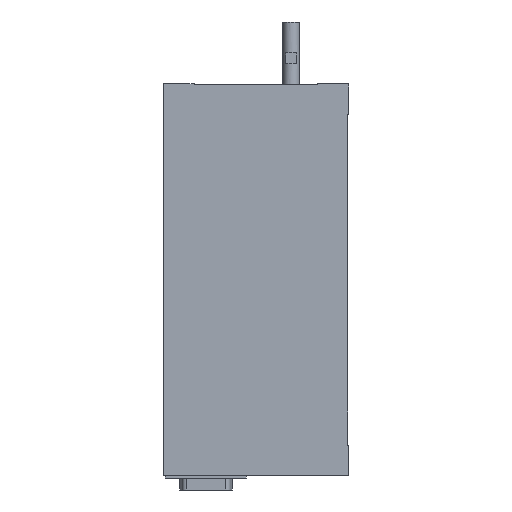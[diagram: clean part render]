
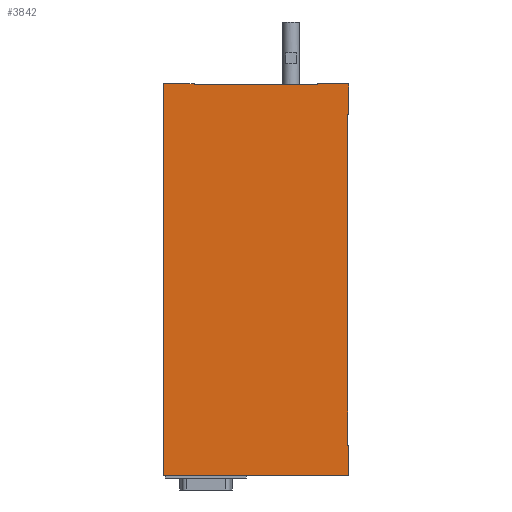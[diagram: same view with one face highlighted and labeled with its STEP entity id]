
A CAD part, front view. The second image highlights one B-rep face of the part: STEP entity #3842.
In plain terms, the highlighted planar face has unit normal (0, -1, 0).
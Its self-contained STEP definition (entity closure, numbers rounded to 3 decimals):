
#3577=CARTESIAN_POINT('',(30.,-17.0,189.5));
#3578=VERTEX_POINT('',#3577);
#3610=CARTESIAN_POINT('',(-30.,-17.,189.5));
#3611=VERTEX_POINT('',#3610);
#3618=CARTESIAN_POINT('',(30.,-17.0,189.5));
#3619=DIRECTION('',(-1.0,0.0,0.0));
#3620=VECTOR('',#3619,60.0);
#3621=LINE('',#3618,#3620);
#3622=EDGE_CURVE('',#3578,#3611,#3621,.T.);
#3636=CARTESIAN_POINT('',(30.,-17.0,190.0));
#3637=VERTEX_POINT('',#3636);
#3638=CARTESIAN_POINT('',(30.,-17.0,190.0));
#3639=DIRECTION('',(0.0,0.0,-1.0));
#3640=VECTOR('',#3639,0.5);
#3641=LINE('',#3638,#3640);
#3642=EDGE_CURVE('',#3637,#3578,#3641,.T.);
#3676=CARTESIAN_POINT('',(-30.,-17.,190.0));
#3677=VERTEX_POINT('',#3676);
#3684=CARTESIAN_POINT('',(-30.,-17.,189.5));
#3685=DIRECTION('',(0.0,0.0,1.0));
#3686=VECTOR('',#3685,0.5);
#3687=LINE('',#3684,#3686);
#3688=EDGE_CURVE('',#3611,#3677,#3687,.T.);
#3707=CARTESIAN_POINT('',(-45.,-17.,190.0));
#3708=VERTEX_POINT('',#3707);
#3715=CARTESIAN_POINT('',(-30.,-17.,190.0));
#3716=DIRECTION('',(-1.0,0.0,0.0));
#3717=VECTOR('',#3716,15.);
#3718=LINE('',#3715,#3717);
#3719=EDGE_CURVE('',#3677,#3708,#3718,.T.);
#3742=CARTESIAN_POINT('',(45.,-17.,190.0));
#3743=VERTEX_POINT('',#3742);
#3744=CARTESIAN_POINT('',(45.,-17.,190.0));
#3745=DIRECTION('',(-1.0,0.0,0.0));
#3746=VECTOR('',#3745,15.);
#3747=LINE('',#3744,#3746);
#3748=EDGE_CURVE('',#3743,#3637,#3747,.T.);
#3776=CARTESIAN_POINT('',(45.,-17.,0.0));
#3777=DIRECTION('',(0.0,-1.0,0.0));
#3778=DIRECTION('',(0.0,0.0,-1.0));
#3779=AXIS2_PLACEMENT_3D('',#3776,#3777,#3778);
#3780=PLANE('',#3779);
#3781=ORIENTED_EDGE('',*,*,#3642,.T.);
#3782=ORIENTED_EDGE('',*,*,#3622,.T.);
#3783=ORIENTED_EDGE('',*,*,#3688,.T.);
#3784=ORIENTED_EDGE('',*,*,#3719,.T.);
#3785=CARTESIAN_POINT('',(-45.,-17.,0.0));
#3786=VERTEX_POINT('',#3785);
#3787=CARTESIAN_POINT('',(-45.,-17.,0.0));
#3788=DIRECTION('',(0.0,0.0,1.0));
#3789=VECTOR('',#3788,190.0);
#3790=LINE('',#3787,#3789);
#3791=EDGE_CURVE('',#3786,#3708,#3790,.T.);
#3792=ORIENTED_EDGE('',*,*,#3791,.F.);
#3793=CARTESIAN_POINT('',(45.,-17.,0.0));
#3794=VERTEX_POINT('',#3793);
#3795=CARTESIAN_POINT('',(45.,-17.,0.0));
#3796=DIRECTION('',(-1.0,0.0,0.0));
#3797=VECTOR('',#3796,90.0);
#3798=LINE('',#3795,#3797);
#3799=EDGE_CURVE('',#3794,#3786,#3798,.T.);
#3800=ORIENTED_EDGE('',*,*,#3799,.F.);
#3801=CARTESIAN_POINT('',(45.0,-17.,15.0));
#3802=VERTEX_POINT('',#3801);
#3803=CARTESIAN_POINT('',(45.,-17.,0.0));
#3804=DIRECTION('',(0.0,0.0,1.0));
#3805=VECTOR('',#3804,15.0);
#3806=LINE('',#3803,#3805);
#3807=EDGE_CURVE('',#3794,#3802,#3806,.T.);
#3808=ORIENTED_EDGE('',*,*,#3807,.T.);
#3809=CARTESIAN_POINT('',(44.5,-17.,15.0));
#3810=VERTEX_POINT('',#3809);
#3811=CARTESIAN_POINT('',(45.0,-17.,15.0));
#3812=DIRECTION('',(-1.0,0.0,0.0));
#3813=VECTOR('',#3812,0.5);
#3814=LINE('',#3811,#3813);
#3815=EDGE_CURVE('',#3802,#3810,#3814,.T.);
#3816=ORIENTED_EDGE('',*,*,#3815,.T.);
#3817=CARTESIAN_POINT('',(44.5,-17.,175.0));
#3818=VERTEX_POINT('',#3817);
#3819=CARTESIAN_POINT('',(44.5,-17.,15.0));
#3820=DIRECTION('',(0.0,0.0,1.0));
#3821=VECTOR('',#3820,160.0);
#3822=LINE('',#3819,#3821);
#3823=EDGE_CURVE('',#3810,#3818,#3822,.T.);
#3824=ORIENTED_EDGE('',*,*,#3823,.T.);
#3825=CARTESIAN_POINT('',(45.0,-17.,175.0));
#3826=VERTEX_POINT('',#3825);
#3827=CARTESIAN_POINT('',(44.5,-17.,175.0));
#3828=DIRECTION('',(1.0,0.0,0.0));
#3829=VECTOR('',#3828,0.5);
#3830=LINE('',#3827,#3829);
#3831=EDGE_CURVE('',#3818,#3826,#3830,.T.);
#3832=ORIENTED_EDGE('',*,*,#3831,.T.);
#3833=CARTESIAN_POINT('',(45.0,-17.,175.0));
#3834=DIRECTION('',(0.0,0.0,1.0));
#3835=VECTOR('',#3834,15.0);
#3836=LINE('',#3833,#3835);
#3837=EDGE_CURVE('',#3826,#3743,#3836,.T.);
#3838=ORIENTED_EDGE('',*,*,#3837,.T.);
#3839=ORIENTED_EDGE('',*,*,#3748,.T.);
#3840=EDGE_LOOP('',(#3781,#3782,#3783,#3784,#3792,#3800,#3808,#3816,#3824,#3832,#3838,#3839));
#3841=FACE_OUTER_BOUND('',#3840,.T.);
#3842=ADVANCED_FACE('',(#3841),#3780,.T.);
